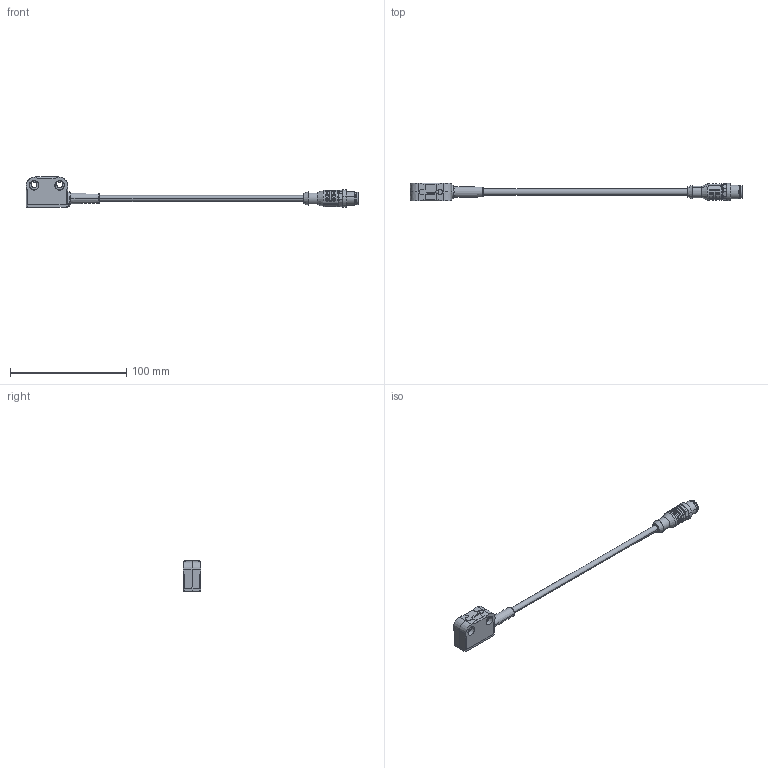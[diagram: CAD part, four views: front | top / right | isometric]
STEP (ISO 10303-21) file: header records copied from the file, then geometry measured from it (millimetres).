
FILE_DESCRIPTION((''),'2;1');
FILE_NAME('K-60700009_01','2018-04-25T14:25:36',('Yvonne.Storm'),(''),'CREO PARAMETRIC BY PTC INC, 2017260','CREO PARAMETRIC BY PTC INC, 2017260','');
FILE_SCHEMA(('AUTOMOTIVE_DESIGN { 1 0 10303 214 1 1 1 1 }'));
Products named in the file (1): K-60700009_01
Bounding box: 286 x 15 x 26.38 mm (x, y, z)
Volume: 16317.4 mm3; surface area: 14256.6 mm2
Topology: 2 solids, 2 shells, 991 faces, 2380 edges, 1424 vertices
Faces by surface type: cylinder 296, plane 264, bspline 198, cone 82, torus 79, sphere 40, extrusion 32
Entity records: 63918 total; most frequent: CARTESIAN_POINT 24243, ORIENTED_EDGE 4736, DIRECTION 4206, PRESENTATION_STYLE_ASSIGNMENT 3393, STYLED_ITEM 2402, CURVE_STYLE 2400, EDGE_CURVE 2368, FILL_AREA_STYLE_COLOUR 1680
